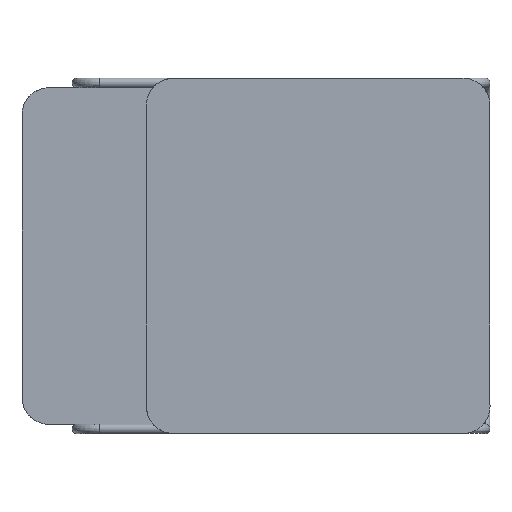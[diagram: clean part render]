
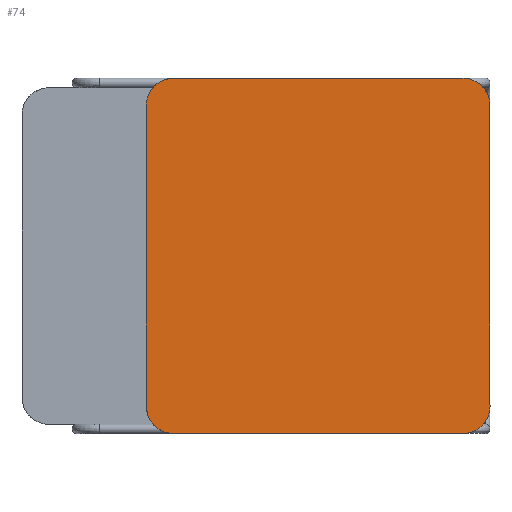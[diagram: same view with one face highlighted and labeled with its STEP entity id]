
A CAD part, top view. The second image highlights one B-rep face of the part: STEP entity #74.
In plain terms, the highlighted planar face has unit normal (0, 0, 1).
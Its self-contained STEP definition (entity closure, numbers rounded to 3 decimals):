
#74=ADVANCED_FACE('',(#202),#1650,.T.);
#202=FACE_OUTER_BOUND('',#330,.T.);
#330=EDGE_LOOP('',(#471,#472,#473,#474,#475,#476,#477,#478));
#471=ORIENTED_EDGE('',*,*,#984,.F.);
#472=ORIENTED_EDGE('',*,*,#1000,.T.);
#473=ORIENTED_EDGE('',*,*,#985,.T.);
#474=ORIENTED_EDGE('',*,*,#995,.T.);
#475=ORIENTED_EDGE('',*,*,#980,.T.);
#476=ORIENTED_EDGE('',*,*,#998,.T.);
#477=ORIENTED_EDGE('',*,*,#986,.F.);
#478=ORIENTED_EDGE('',*,*,#1002,.T.);
#980=EDGE_CURVE('',#1438,#1437,#1683,.T.);
#984=EDGE_CURVE('',#1446,#1445,#1687,.T.);
#985=EDGE_CURVE('',#1448,#1447,#1688,.T.);
#986=EDGE_CURVE('',#1450,#1449,#1689,.T.);
#995=EDGE_CURVE('',#1447,#1438,#1237,.T.);
#998=EDGE_CURVE('',#1437,#1449,#1240,.T.);
#1000=EDGE_CURVE('',#1446,#1448,#1242,.T.);
#1002=EDGE_CURVE('',#1450,#1445,#1244,.T.);
#1237=(
BOUNDED_CURVE()
B_SPLINE_CURVE(2,(#2089,#2090,#2091),.UNSPECIFIED.,.F.,.F.)
B_SPLINE_CURVE_WITH_KNOTS((3,3),(-72.257,0.),.UNSPECIFIED.)
CURVE()
GEOMETRIC_REPRESENTATION_ITEM()
RATIONAL_B_SPLINE_CURVE((1.,0.707,1.))
REPRESENTATION_ITEM('')
);
#1240=(
BOUNDED_CURVE()
B_SPLINE_CURVE(2,(#2098,#2099,#2100),.UNSPECIFIED.,.F.,.F.)
B_SPLINE_CURVE_WITH_KNOTS((3,3),(0.,72.257),.UNSPECIFIED.)
CURVE()
GEOMETRIC_REPRESENTATION_ITEM()
RATIONAL_B_SPLINE_CURVE((1.,0.707,1.))
REPRESENTATION_ITEM('')
);
#1242=(
BOUNDED_CURVE()
B_SPLINE_CURVE(2,(#2104,#2105,#2106),.UNSPECIFIED.,.F.,.F.)
B_SPLINE_CURVE_WITH_KNOTS((3,3),(0.,72.257),.UNSPECIFIED.)
CURVE()
GEOMETRIC_REPRESENTATION_ITEM()
RATIONAL_B_SPLINE_CURVE((1.,0.707,1.))
REPRESENTATION_ITEM('')
);
#1244=(
BOUNDED_CURVE()
B_SPLINE_CURVE(2,(#2110,#2111,#2112),.UNSPECIFIED.,.F.,.F.)
B_SPLINE_CURVE_WITH_KNOTS((3,3),(-72.257,0.),.UNSPECIFIED.)
CURVE()
GEOMETRIC_REPRESENTATION_ITEM()
RATIONAL_B_SPLINE_CURVE((1.,0.707,1.))
REPRESENTATION_ITEM('')
);
#1437=VERTEX_POINT('',#2043);
#1438=VERTEX_POINT('',#2044);
#1445=VERTEX_POINT('',#2051);
#1446=VERTEX_POINT('',#2052);
#1447=VERTEX_POINT('',#2053);
#1448=VERTEX_POINT('',#2054);
#1449=VERTEX_POINT('',#2055);
#1450=VERTEX_POINT('',#2056);
#1650=PLANE('',#1834);
#1683=B_SPLINE_CURVE_WITH_KNOTS('',1,(#2059,#2060),.UNSPECIFIED.,.F.,.F.,
(2,2),(46.,553.804),.UNSPECIFIED.);
#1687=B_SPLINE_CURVE_WITH_KNOTS('',1,(#2067,#2068),.UNSPECIFIED.,.F.,.F.,
(2,2),(46.,553.804),.UNSPECIFIED.);
#1688=B_SPLINE_CURVE_WITH_KNOTS('',1,(#2069,#2070),.UNSPECIFIED.,.F.,.F.,
(2,2),(47.903,556.097),.UNSPECIFIED.);
#1689=B_SPLINE_CURVE_WITH_KNOTS('',1,(#2071,#2072),.UNSPECIFIED.,.F.,.F.,
(2,2),(47.903,556.097),.UNSPECIFIED.);
#1834=AXIS2_PLACEMENT_3D('',#2032,#1930,$);
#1930=DIRECTION('',(0.,0.,1.));
#2032=CARTESIAN_POINT('',(702.173,-834.174,392.5));
#2043=CARTESIAN_POINT('',(1282.176,-280.371,392.5));
#2044=CARTESIAN_POINT('',(1282.176,-788.174,392.5));
#2051=CARTESIAN_POINT('',(702.173,-280.371,392.5));
#2052=CARTESIAN_POINT('',(702.173,-788.174,392.5));
#2053=CARTESIAN_POINT('',(1236.176,-834.174,392.5));
#2054=CARTESIAN_POINT('',(748.173,-834.174,392.5));
#2055=CARTESIAN_POINT('',(1236.176,-234.371,392.5));
#2056=CARTESIAN_POINT('',(748.173,-234.371,392.5));
#2059=CARTESIAN_POINT('',(1282.176,-788.174,392.5));
#2060=CARTESIAN_POINT('',(1282.176,-280.371,392.5));
#2067=CARTESIAN_POINT('',(702.173,-788.174,392.5));
#2068=CARTESIAN_POINT('',(702.173,-280.371,392.5));
#2069=CARTESIAN_POINT('',(748.173,-834.174,392.5));
#2070=CARTESIAN_POINT('',(1236.176,-834.174,392.5));
#2071=CARTESIAN_POINT('',(748.173,-234.371,392.5));
#2072=CARTESIAN_POINT('',(1236.176,-234.371,392.5));
#2089=CARTESIAN_POINT('',(1236.176,-834.174,392.5));
#2090=CARTESIAN_POINT('',(1282.176,-834.174,392.5));
#2091=CARTESIAN_POINT('',(1282.176,-788.174,392.5));
#2098=CARTESIAN_POINT('',(1282.176,-280.371,392.5));
#2099=CARTESIAN_POINT('',(1282.176,-234.371,392.5));
#2100=CARTESIAN_POINT('',(1236.176,-234.371,392.5));
#2104=CARTESIAN_POINT('',(702.173,-788.174,392.5));
#2105=CARTESIAN_POINT('',(702.173,-834.174,392.5));
#2106=CARTESIAN_POINT('',(748.173,-834.174,392.5));
#2110=CARTESIAN_POINT('',(748.173,-234.371,392.5));
#2111=CARTESIAN_POINT('',(702.173,-234.371,392.5));
#2112=CARTESIAN_POINT('',(702.173,-280.371,392.5));
